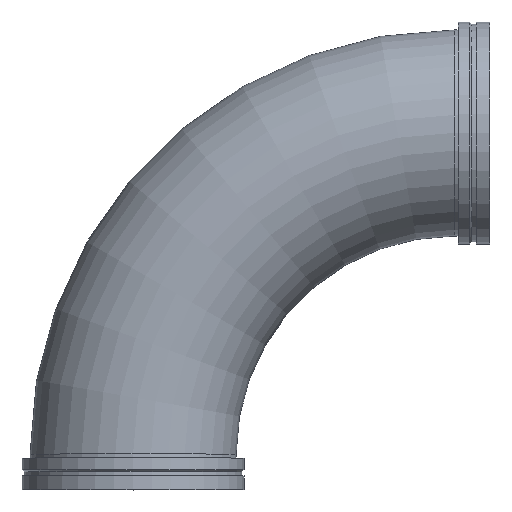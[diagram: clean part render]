
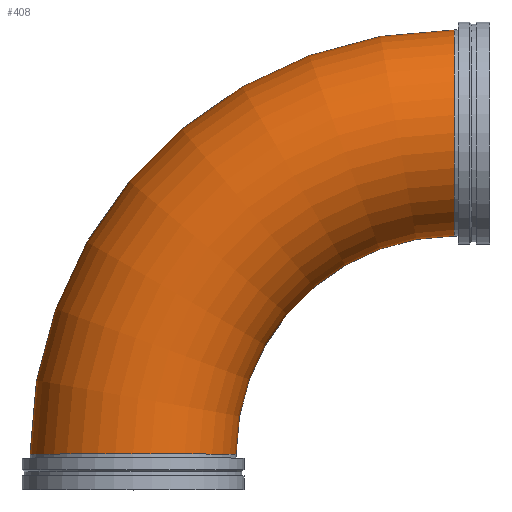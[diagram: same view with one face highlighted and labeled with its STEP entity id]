
A CAD part, top view. The second image highlights one B-rep face of the part: STEP entity #408.
In plain terms, the highlighted toroidal (fillet/blend) face has major radius 1028.7 mm and minor radius 330.2 mm.
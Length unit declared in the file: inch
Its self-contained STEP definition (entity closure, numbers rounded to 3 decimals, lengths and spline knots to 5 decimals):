
#46=TOROIDAL_SURFACE('',#484,40.5,13.);
#105=FACE_OUTER_BOUND('',#129,.T.);
#129=EDGE_LOOP('',(#346,#347,#348,#349,#350,#351));
#169=CIRCLE('',#482,13.);
#170=CIRCLE('',#483,13.);
#171=CIRCLE('',#485,27.5);
#172=CIRCLE('',#486,13.);
#173=CIRCLE('',#487,13.);
#207=VERTEX_POINT('',#756);
#208=VERTEX_POINT('',#758);
#209=VERTEX_POINT('',#762);
#210=VERTEX_POINT('',#764);
#256=EDGE_CURVE('',#207,#208,#169,.T.);
#257=EDGE_CURVE('',#208,#207,#170,.T.);
#258=EDGE_CURVE('',#208,#209,#171,.T.);
#259=EDGE_CURVE('',#209,#210,#172,.T.);
#260=EDGE_CURVE('',#210,#209,#173,.T.);
#346=ORIENTED_EDGE('',*,*,#256,.F.);
#347=ORIENTED_EDGE('',*,*,#257,.F.);
#348=ORIENTED_EDGE('',*,*,#258,.T.);
#349=ORIENTED_EDGE('',*,*,#259,.T.);
#350=ORIENTED_EDGE('',*,*,#260,.T.);
#351=ORIENTED_EDGE('',*,*,#258,.F.);
#408=ADVANCED_FACE('',(#105),#46,.T.);
#482=AXIS2_PLACEMENT_3D('',#759,#617,#618);
#483=AXIS2_PLACEMENT_3D('',#760,#619,#620);
#484=AXIS2_PLACEMENT_3D('',#761,#621,#622);
#485=AXIS2_PLACEMENT_3D('',#763,#623,#624);
#486=AXIS2_PLACEMENT_3D('',#765,#625,#626);
#487=AXIS2_PLACEMENT_3D('',#766,#627,#628);
#617=DIRECTION('center_axis',(1.,0.,0.));
#618=DIRECTION('ref_axis',(0.,-1.,0.));
#619=DIRECTION('center_axis',(1.,0.,0.));
#620=DIRECTION('ref_axis',(0.,-1.,0.));
#621=DIRECTION('center_axis',(0.,0.,-1.));
#622=DIRECTION('ref_axis',(-1.,0.,0.));
#623=DIRECTION('center_axis',(0.,0.,1.));
#624=DIRECTION('ref_axis',(-1.,0.,0.));
#625=DIRECTION('center_axis',(0.,1.,0.));
#626=DIRECTION('ref_axis',(1.,0.,0.));
#627=DIRECTION('center_axis',(0.,1.,0.));
#628=DIRECTION('ref_axis',(1.,0.,0.));
#756=CARTESIAN_POINT('',(40.5,58.,0.));
#758=CARTESIAN_POINT('',(40.5,32.,0.));
#759=CARTESIAN_POINT('Origin',(40.5,45.,0.));
#760=CARTESIAN_POINT('Origin',(40.5,45.,0.));
#761=CARTESIAN_POINT('Origin',(40.5,4.5,0.));
#762=CARTESIAN_POINT('',(13.,4.5,0.));
#763=CARTESIAN_POINT('Origin',(40.5,4.5,0.));
#764=CARTESIAN_POINT('',(-13.,4.5,0.));
#765=CARTESIAN_POINT('Origin',(0.,4.5,0.));
#766=CARTESIAN_POINT('Origin',(0.,4.5,0.));
